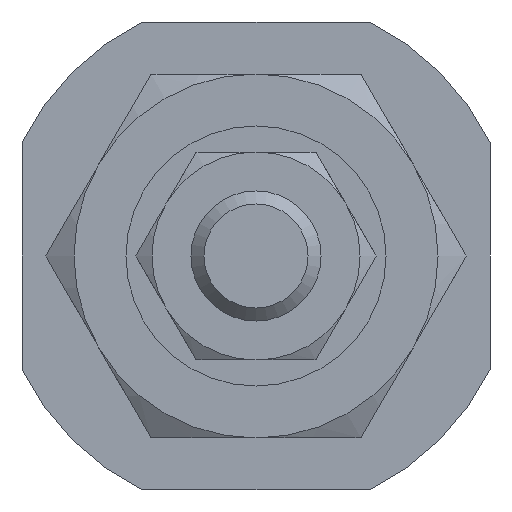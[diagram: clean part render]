
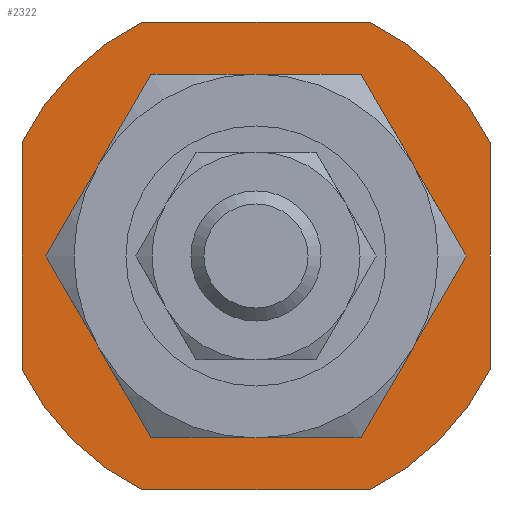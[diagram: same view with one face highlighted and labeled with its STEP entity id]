
A CAD part, left-side view. The second image highlights one B-rep face of the part: STEP entity #2322.
In plain terms, the highlighted planar face has unit normal (-1, 0, 0).
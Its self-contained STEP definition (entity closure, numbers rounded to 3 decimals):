
#1926=CARTESIAN_POINT('',(-60.899,-4.359,9.));
#1927=VERTEX_POINT('',#1926);
#1942=CARTESIAN_POINT('',(-60.899,4.359,9.0));
#1943=VERTEX_POINT('',#1942);
#1950=CARTESIAN_POINT('',(-60.899,-4.359,9.));
#1951=DIRECTION('',(0.0,1.0,0.0));
#1952=VECTOR('',#1951,8.718);
#1953=LINE('',#1950,#1952);
#1954=EDGE_CURVE('',#1927,#1943,#1953,.T.);
#2003=CARTESIAN_POINT('',(-60.899,4.359,-9.0));
#2004=VERTEX_POINT('',#2003);
#2019=CARTESIAN_POINT('',(-60.899,-4.359,-9.));
#2020=VERTEX_POINT('',#2019);
#2027=CARTESIAN_POINT('',(-60.899,4.359,-9.0));
#2028=DIRECTION('',(0.0,-1.0,0.0));
#2029=VECTOR('',#2028,8.718);
#2030=LINE('',#2027,#2029);
#2031=EDGE_CURVE('',#2004,#2020,#2030,.T.);
#2043=CARTESIAN_POINT('',(-60.899,-9.,-4.359));
#2044=VERTEX_POINT('',#2043);
#2059=CARTESIAN_POINT('',(-60.899,-9.,4.359));
#2060=VERTEX_POINT('',#2059);
#2067=CARTESIAN_POINT('',(-60.899,-9.,-4.359));
#2068=DIRECTION('',(0.0,0.0,1.0));
#2069=VECTOR('',#2068,8.718);
#2070=LINE('',#2067,#2069);
#2071=EDGE_CURVE('',#2044,#2060,#2070,.T.);
#2083=CARTESIAN_POINT('',(-60.899,9.,4.359));
#2084=VERTEX_POINT('',#2083);
#2099=CARTESIAN_POINT('',(-60.899,9.,-4.359));
#2100=VERTEX_POINT('',#2099);
#2107=CARTESIAN_POINT('',(-60.899,9.,4.359));
#2108=DIRECTION('',(0.0,0.0,-1.0));
#2109=VECTOR('',#2108,8.718);
#2110=LINE('',#2107,#2109);
#2111=EDGE_CURVE('',#2084,#2100,#2110,.T.);
#2232=CARTESIAN_POINT('',(-60.899,0.,0.0));
#2233=DIRECTION('',(-1.0,0.,0.0));
#2234=DIRECTION('',(0.,1.0,0.0));
#2235=AXIS2_PLACEMENT_3D('',#2232,#2233,#2234);
#2236=CIRCLE('',#2235,10.);
#2237=EDGE_CURVE('',#1943,#2084,#2236,.T.);
#2256=CARTESIAN_POINT('',(-60.899,0.,0.0));
#2257=DIRECTION('',(-1.0,0.,0.0));
#2258=DIRECTION('',(0.,1.0,0.0));
#2259=AXIS2_PLACEMENT_3D('',#2256,#2257,#2258);
#2260=CIRCLE('',#2259,10.);
#2261=EDGE_CURVE('',#2020,#2044,#2260,.T.);
#2272=CARTESIAN_POINT('',(-60.899,0.,0.0));
#2273=DIRECTION('',(-1.0,0.,0.0));
#2274=DIRECTION('',(0.,1.0,0.0));
#2275=AXIS2_PLACEMENT_3D('',#2272,#2273,#2274);
#2276=CIRCLE('',#2275,10.);
#2277=EDGE_CURVE('',#2100,#2004,#2276,.T.);
#2290=CARTESIAN_POINT('',(-60.899,7.5,0.0));
#2291=DIRECTION('',(-1.0,0.0,0.0));
#2292=DIRECTION('',(0.0,0.0,1.0));
#2293=AXIS2_PLACEMENT_3D('',#2290,#2291,#2292);
#2294=PLANE('',#2293);
#2295=ORIENTED_EDGE('',*,*,#1954,.T.);
#2296=ORIENTED_EDGE('',*,*,#2237,.T.);
#2297=ORIENTED_EDGE('',*,*,#2111,.T.);
#2298=ORIENTED_EDGE('',*,*,#2277,.T.);
#2299=ORIENTED_EDGE('',*,*,#2031,.T.);
#2300=ORIENTED_EDGE('',*,*,#2261,.T.);
#2301=ORIENTED_EDGE('',*,*,#2071,.T.);
#2302=CARTESIAN_POINT('',(-60.899,0.,0.0));
#2303=DIRECTION('',(-1.0,0.,0.0));
#2304=DIRECTION('',(0.,1.0,0.0));
#2305=AXIS2_PLACEMENT_3D('',#2302,#2303,#2304);
#2306=CIRCLE('',#2305,10.);
#2307=EDGE_CURVE('',#2060,#1927,#2306,.T.);
#2308=ORIENTED_EDGE('',*,*,#2307,.T.);
#2309=EDGE_LOOP('',(#2295,#2296,#2297,#2298,#2299,#2300,#2301,#2308));
#2310=FACE_OUTER_BOUND('',#2309,.T.);
#2311=CARTESIAN_POINT('',(-60.899,5.,0.0));
#2312=VERTEX_POINT('',#2311);
#2313=CARTESIAN_POINT('',(-60.899,0.,0.0));
#2314=DIRECTION('',(-1.0,0.,0.0));
#2315=DIRECTION('',(0.,1.0,0.0));
#2316=AXIS2_PLACEMENT_3D('',#2313,#2314,#2315);
#2317=CIRCLE('',#2316,5.);
#2318=EDGE_CURVE('',#2312,#2312,#2317,.T.);
#2319=ORIENTED_EDGE('',*,*,#2318,.F.);
#2320=EDGE_LOOP('',(#2319));
#2321=FACE_BOUND('',#2320,.T.);
#2322=ADVANCED_FACE('',(#2310,#2321),#2294,.T.);
